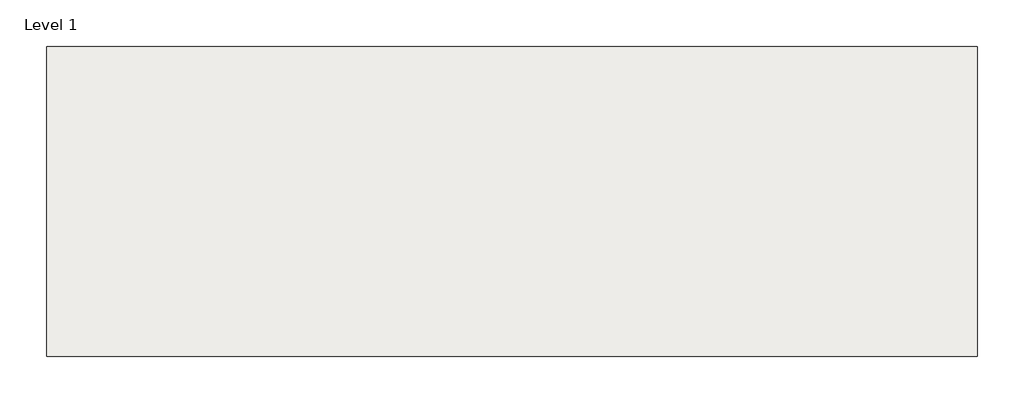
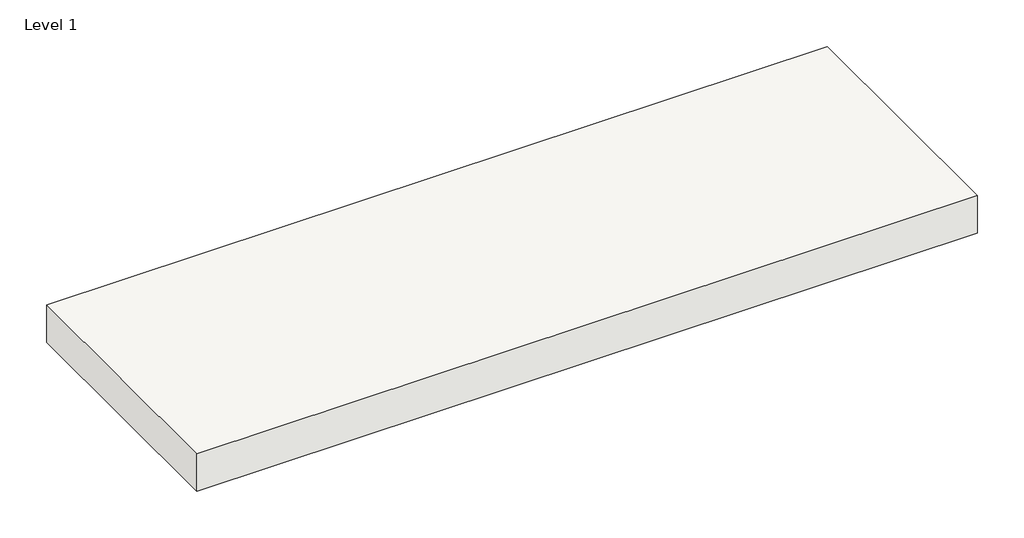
# One storey, incomplete: 1 slab.
"""IFC4 building model written with IfcOpenShell, lengths in millimetres."""

from ifc_helpers import new_model, si_unit, frame, origin, place, context, project, spatial, polyline, outline, extrude, element, save

model = new_model("IFC4")

# Units and contexts
model_context = context("Model", 3, world=origin())
ifc_project = project(units=[si_unit("LENGTHUNIT", "METRE", prefix="MILLI")], contexts=[model_context])

# Site, building, storey
site = spatial("IfcSite", under=ifc_project)
building = spatial("IfcBuilding", under=site)
storey = spatial("IfcBuildingStorey", under=building, Name="Level 1", Elevation=0.0)

# Slab
placement = place(None, origin())
element("IfcSlab", 1, ObjectType="Generic - 12\"", at=placement, inside=storey, context=model_context, shape_type="SweptSolid", body=[
    extrude(outline(polyline([(-12848.4242006, 14637.2598675), (-12848.4242006, 12637.2598675), (-18848.4242006, 12637.2598675), (-18848.4242006, 14637.2598675), (-12848.4242006, 14637.2598675)])), frame((0.0, 0.0, -304.8), z_axis=(0.0, 0.0, 1.0), x_axis=(1.0, 0.0, 0.0)), (0.0, 0.0, 1.0), 304.8),
])

save(model, "model.ifc")
